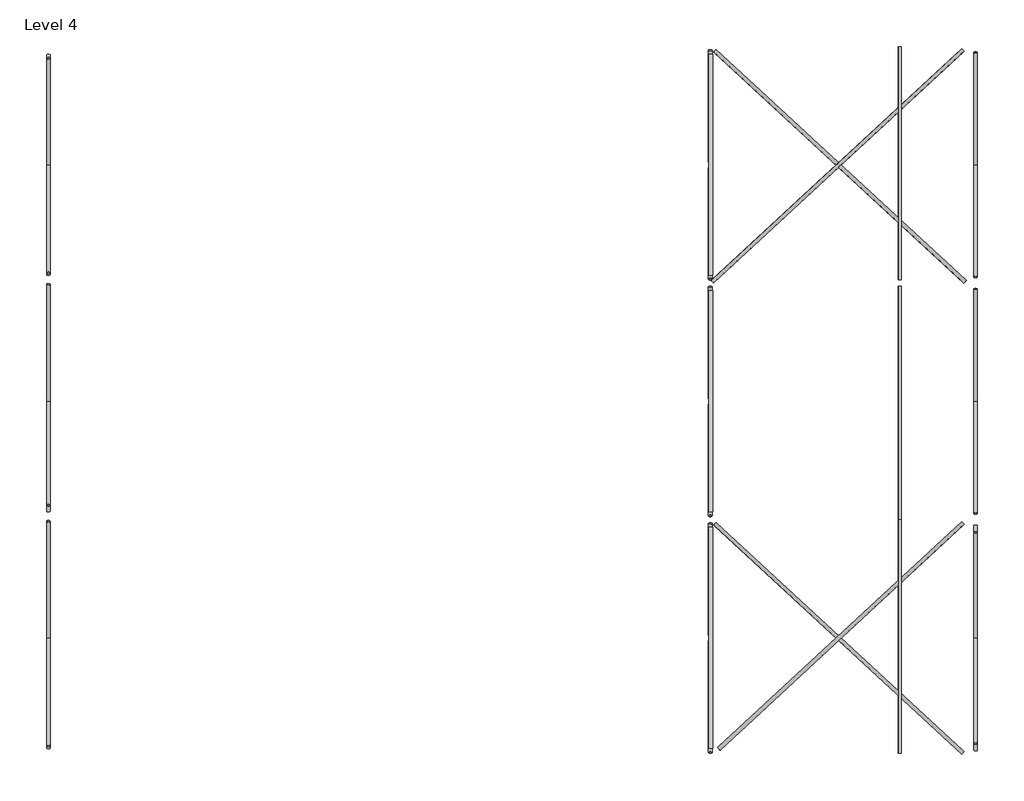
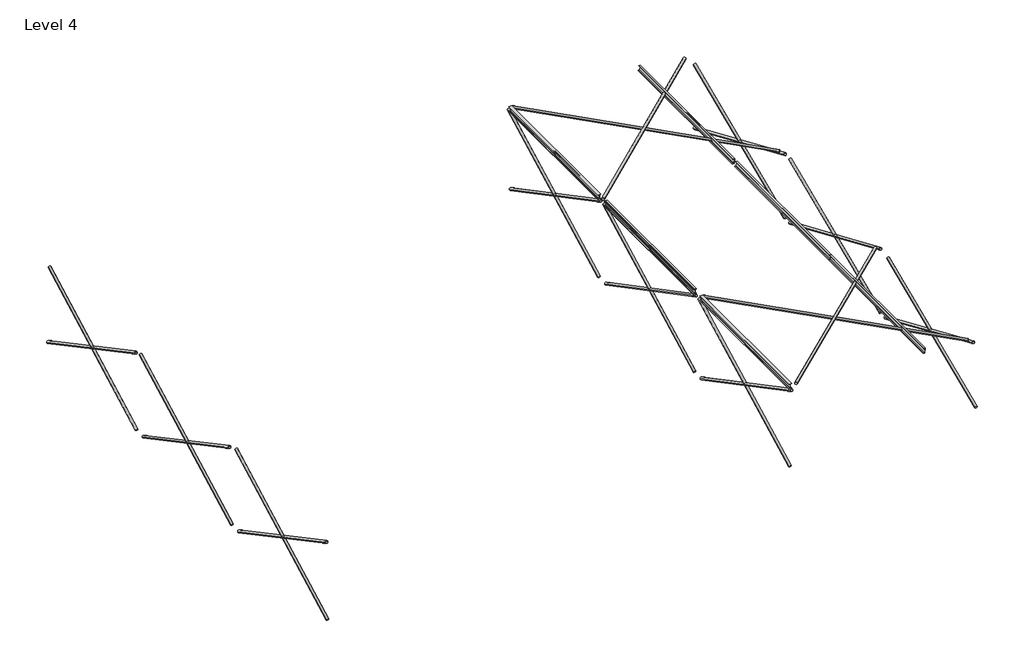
# One storey: 22 members, 6 beams.
"""IFC4 building model written with IfcOpenShell, lengths in millimetres."""

import ifcopenshell
import ifcopenshell.guid

model = None  # the IFC model being written
_history = None  # IfcOwnerHistory: only IFC2X3 demands one
_inside = {}  # id of a spatial element -> (the spatial element, [elements in it])
_under = {}  # id of a project, library or spatial element -> (it, [spatial elements below it])
_declared = {}  # id of a project -> (the project, [libraries it declares])
_typed = {}  # id of a type object -> (the type object, [elements of that type])
_made_of = {}  # id of a material, layer set ... -> (it, [elements and type objects made of it])


def new_model(schema):
    """Start an empty IFC model of exactly this schema.

    Asked for "IFC4X3", IfcOpenShell would pick the latest addendum, in which some entities
    have other attributes; the version numbers below select the first issue.
    IFC2X3 requires an IfcOwnerHistory on every rooted entity: one is made here for all.
    """
    global model, _history
    if schema == "IFC4X3":
        model = ifcopenshell.file(schema_version=(4, 3, 0, 0))
    else:
        model = ifcopenshell.file(schema=schema)
    _inside.clear()
    _under.clear()
    _declared.clear()
    _typed.clear()
    _made_of.clear()
    _history = None
    if model.schema == "IFC2X3":
        org = make("IfcOrganization", Name="unknown")
        user = make(
            "IfcPersonAndOrganization",
            ThePerson=make("IfcPerson", FamilyName="unknown"),
            TheOrganization=org,
        )
        app = make(
            "IfcApplication",
            ApplicationDeveloper=org,
            Version="unknown",
            ApplicationFullName="unknown",
            ApplicationIdentifier="unknown",
        )
        _history = make(
            "IfcOwnerHistory",
            OwningUser=user,
            OwningApplication=app,
            ChangeAction="ADDED",
            CreationDate=0,
        )
    return model


def make(cls, **values):
    """One entity of the class cls with the attributes given. An attribute that is None is left unset."""
    return model.create_entity(
        cls, **{name: value for name, value in values.items() if value is not None}
    )


def rooted(cls, **values):
    """An entity with a GlobalId (a new one), such as an element, a storey or a relation."""
    return make(cls, GlobalId=ifcopenshell.guid.new(), OwnerHistory=_history, **values)


def si_unit(unit_type, name, prefix=None):
    """IfcSIUnit, for example si_unit("LENGTHUNIT", "METRE", prefix="MILLI")."""
    return make("IfcSIUnit", UnitType=unit_type, Prefix=prefix, Name=name)


def assignment(units):
    """IfcUnitAssignment: the units of a project."""
    return None if units is None else make("IfcUnitAssignment", Units=units)


def point(xyz):
    """IfcCartesianPoint."""
    return None if xyz is None else make("IfcCartesianPoint", Coordinates=xyz)


def direction(xyz):
    """IfcDirection."""
    return None if xyz is None else make("IfcDirection", DirectionRatios=xyz)


def frame(location, z_axis=None, x_axis=None):
    """IfcAxis2Placement3D, a coordinate frame: its origin and axes. An axis left out is left unset."""
    return make(
        "IfcAxis2Placement3D",
        Location=point(location),
        Axis=direction(z_axis),
        RefDirection=direction(x_axis),
    )


def frame_2d(location, x_axis=None):
    """IfcAxis2Placement2D, a coordinate frame in the plane: its origin and x axis."""
    return make(
        "IfcAxis2Placement2D", Location=point(location), RefDirection=direction(x_axis)
    )


def origin():
    """The frame at (0, 0, 0) with its axes left unset."""
    return frame((0.0, 0.0, 0.0))


def origin_2d():
    """The frame at (0, 0) in the plane with its x axis left unset."""
    return frame_2d((0.0, 0.0))


def place(relative_to, where):
    """IfcLocalPlacement: puts the frame where relative to a parent placement (None: the world)."""
    return make(
        "IfcLocalPlacement", PlacementRelTo=relative_to, RelativePlacement=where
    )


def context(
    kind, dimensions, precision=None, world=None, true_north=None, identifier=None
):
    """IfcGeometricRepresentationContext, for example the 3D "Model" context."""
    return make(
        "IfcGeometricRepresentationContext",
        ContextIdentifier=identifier,
        ContextType=kind,
        CoordinateSpaceDimension=dimensions,
        Precision=precision,
        WorldCoordinateSystem=world,
        TrueNorth=true_north,
    )


def project(units=None, contexts=None):
    """IfcProject with its units and contexts."""
    return rooted(
        "IfcProject",
        Name="project",
        RepresentationContexts=contexts,
        UnitsInContext=assignment(units),
    )


def spatial(cls, under=None, at=None, **own):
    """A site, building, storey or space (cls), placed at a placement, below another one or the project."""
    s = rooted(cls, ObjectPlacement=at, **own)
    if under is not None:
        _under.setdefault(under.id(), (under, []))[1].append(s)
    return s


def polyline(points):
    """IfcPolyline through the points."""
    return make("IfcPolyline", Points=[point(p) for p in points])


def circle_curve(where, radius):
    """IfcCircle in the frame where."""
    return make("IfcCircle", Position=where, Radius=radius)


def trimmed(basis, trim1, trim2, sense, master):
    """IfcTrimmedCurve: the piece of a basis curve between two trims."""
    return make(
        "IfcTrimmedCurve",
        BasisCurve=basis,
        Trim1=trim1,
        Trim2=trim2,
        SenseAgreement=sense,
        MasterRepresentation=master,
    )


def segment(curve, same_sense, transition):
    """IfcCompositeCurveSegment."""
    return make(
        "IfcCompositeCurveSegment",
        Transition=transition,
        SameSense=same_sense,
        ParentCurve=curve,
    )


def composite_curve(segments, self_intersect=None):
    """IfcCompositeCurve: segments joined end to end."""
    return make("IfcCompositeCurve", Segments=segments, SelfIntersect=self_intersect)


def outline(outer, holes=None, kind="AREA"):
    """IfcArbitraryClosedProfileDef: a profile drawn as a closed curve; with holes, ...WithVoids."""
    if holes is None:
        return make("IfcArbitraryClosedProfileDef", ProfileType=kind, OuterCurve=outer)
    return make(
        "IfcArbitraryProfileDefWithVoids",
        ProfileType=kind,
        OuterCurve=outer,
        InnerCurves=holes,
    )


def extrude(swept, where, along, depth):
    """IfcExtrudedAreaSolid: the profile swept, set in the frame where, extruded along a direction by depth."""
    return make(
        "IfcExtrudedAreaSolid",
        SweptArea=swept,
        Position=where,
        ExtrudedDirection=direction(along),
        Depth=depth,
    )


def shape(context_of_items, identifier, shape_type, items):
    """IfcShapeRepresentation: the items that make up one representation, for example the "Body"."""
    return make(
        "IfcShapeRepresentation",
        ContextOfItems=context_of_items,
        RepresentationIdentifier=identifier,
        RepresentationType=shape_type,
        Items=items,
    )


def source(mapping_origin, context_of_items, identifier, shape_type, items):
    """IfcRepresentationMap: a shape defined once, which mapped items show again and again."""
    return make(
        "IfcRepresentationMap",
        MappingOrigin=mapping_origin,
        MappedRepresentation=shape(context_of_items, identifier, shape_type, items),
    )


def transform(
    local_origin,
    x_axis=None,
    y_axis=None,
    z_axis=None,
    scale=None,
    scale2=None,
    scale3=None,
    uniform=True,
):
    """IfcCartesianTransformationOperator3D, or its non-uniform kind. x_axis, y_axis, z_axis: its Axis1, 2, 3."""
    if uniform:
        return make(
            "IfcCartesianTransformationOperator3D",
            Axis1=direction(x_axis),
            Axis2=direction(y_axis),
            LocalOrigin=point(local_origin),
            Scale=scale,
            Axis3=direction(z_axis),
        )
    return make(
        "IfcCartesianTransformationOperator3DnonUniform",
        Axis1=direction(x_axis),
        Axis2=direction(y_axis),
        LocalOrigin=point(local_origin),
        Scale=scale,
        Axis3=direction(z_axis),
        Scale2=scale2,
        Scale3=scale3,
    )


def mapped(mapping_source, mapping_target):
    """IfcMappedItem: shows the shape of a source again, moved by a transform."""
    return make(
        "IfcMappedItem", MappingSource=mapping_source, MappingTarget=mapping_target
    )


def made_of(thing, what):
    """Note that an element or type object is made of a material, layer set ...; save() writes the relation."""
    if what is not None:
        _made_of.setdefault(what.id(), (what, []))[1].append(thing)
    return thing


def element(
    cls,
    number,
    at=None,
    inside=None,
    cuts=None,
    type_object=None,
    material=None,
    context=None,
    identifier="Body",
    shape_type=None,
    held_by="IfcProductDefinitionShape",
    body=None,
    shapes=None,
    **own,
):
    """One element of the class cls, such as IfcWall. Its Tag is "e" and its number.

    at: its placement. inside: the storey or other place that contains it. cuts: it is an
    opening in that element (IfcRelVoidsElement). A single representation is given by context,
    identifier, shape_type and body (its items); several are given by shapes. held_by: the class
    of the entity that holds the representations. save() writes the other relations.
    """
    e = rooted(cls, Tag="e%d" % number, ObjectPlacement=at, **own)
    if body is not None:
        shapes = [shape(context, identifier, shape_type, body)]
    if shapes is not None:
        e.Representation = make(held_by, Representations=shapes)
    if inside is not None:
        _inside.setdefault(inside.id(), (inside, []))[1].append(e)
    if cuts is not None:
        rooted(
            "IfcRelVoidsElement", RelatingBuildingElement=cuts, RelatedOpeningElement=e
        )
    if type_object is not None:
        _typed.setdefault(type_object.id(), (type_object, []))[1].append(e)
    return made_of(e, material)


def aggregate(whole, parts):
    """IfcRelAggregates: a whole, such as a stair, and the parts it consists of."""
    return rooted("IfcRelAggregates", RelatingObject=whole, RelatedObjects=parts)


def save(model, path):
    """Write the relations noted so far, then the file.

    IfcRelAggregates (storeys below a building ...), IfcRelContainedInSpatialStructure (elements
    in a storey), IfcRelDefinesByType, IfcRelAssociatesMaterial and IfcRelDeclares: one each for
    every whole, place, type object, material and project.
    """
    for whole, parts in _under.values():
        aggregate(whole, parts)
    for where, things in _inside.values():
        rooted(
            "IfcRelContainedInSpatialStructure",
            RelatedElements=things,
            RelatingStructure=where,
        )
    for kind, things in _typed.values():
        rooted("IfcRelDefinesByType", RelatedObjects=things, RelatingType=kind)
    for what, things in _made_of.values():
        rooted("IfcRelAssociatesMaterial", RelatedObjects=things, RelatingMaterial=what)
    for by, libraries in _declared.values():
        rooted("IfcRelDeclares", RelatingContext=by, RelatedDefinitions=libraries)
    model.write(path)


def c_channel_c6x13_5e4b8ca6(model_context):
    return source(origin(), model_context, "Body", "SweptSolid", [
        extrude(outline(composite_curve([segment(polyline([(13.0556, 76.2), (13.0556, -76.2), (-41.8084, -76.2)]), True, "CONTINUOUS"), segment(trimmed(circle_curve(frame_2d((-33.0962, -76.2)), 8.7122), [point((-41.8084, -76.2))], [point((-33.0962, -67.4878))], False, "CARTESIAN"), True, "CONTINUOUS"), segment(polyline([(-33.0962, -67.4878), (1.9558, -61.9361086), (1.9558, 61.9361086), (-33.0962, 67.4878)]), True, "CONTINUOUS"), segment(trimmed(circle_curve(frame_2d((-33.0962, 76.2)), 8.7122), [point((-33.0962, 67.4878))], [point((-41.8084, 76.2))], False, "CARTESIAN"), True, "CONTINUOUS"), segment(polyline([(-41.8084, 76.2), (13.0556, 76.2)]), True, "CONTINUOUS")], self_intersect=False)), frame((-2434.3170578, 0.0, 0.0), z_axis=(1.0, 0.0, 0.0), x_axis=(0.0, 1.0, 0.0)), (0.0, 0.0, 1.0), 4934.3170592),
    ])


def c_channel_c6x13_f35f4d1e(model_context):
    return source(origin(), model_context, "Body", "SweptSolid", [
        extrude(outline(composite_curve([segment(polyline([(-13.0556, 76.2), (41.8084, 76.2)]), True, "CONTINUOUS"), segment(trimmed(circle_curve(frame_2d((33.0962, 76.2)), 8.7122), [point((41.8084, 76.2))], [point((33.0962, 67.4878))], False, "CARTESIAN"), True, "CONTINUOUS"), segment(polyline([(33.0962, 67.4878), (-1.9558, 61.9361086), (-1.9558, -61.9361086), (33.0962, -67.4878)]), True, "CONTINUOUS"), segment(trimmed(circle_curve(frame_2d((33.0962, -76.2)), 8.7122), [point((33.0962, -67.4878))], [point((41.8084, -76.2))], False, "CARTESIAN"), True, "CONTINUOUS"), segment(polyline([(41.8084, -76.2), (-13.0556, -76.2), (-13.0556, 76.2)]), True, "CONTINUOUS")], self_intersect=False)), frame((-2434.3170578, 0.0, 0.0), z_axis=(1.0, 0.0, 0.0), x_axis=(0.0, 1.0, 0.0)), (0.0, 0.0, 1.0), 4934.3170592),
    ])


def s_shapes_s6x17_25_a5c0bde4(model_context):
    return source(origin(), model_context, "Body", "SweptSolid", [
        extrude(outline(composite_curve([segment(polyline([(-45.339, 76.2), (45.339, 76.2), (45.339, 74.2298368)]), True, "CONTINUOUS"), segment(trimmed(circle_curve(frame_2d((40.7797, 74.2298368)), 4.5593), [point((45.339, 74.2298368))], [point((41.5292458, 69.7325713))], False, "CARTESIAN"), True, "CONTINUOUS"), segment(polyline([(41.5292458, 69.7325713), (13.5250085, 65.065189)]), True, "CONTINUOUS"), segment(trimmed(circle_curve(frame_2d((15.0241, 56.0706579)), 9.1186), [point((13.5250085, 65.065189))], [point((5.9055, 56.0706579))], True, "CARTESIAN"), True, "CONTINUOUS"), segment(polyline([(5.9055, 56.0706579), (5.9055, -56.0706579)]), True, "CONTINUOUS"), segment(trimmed(circle_curve(frame_2d((15.0241, -56.0706579)), 9.1186), [point((5.9055, -56.0706579))], [point((13.5250085, -65.065189))], True, "CARTESIAN"), True, "CONTINUOUS"), segment(polyline([(13.5250085, -65.065189), (41.5292458, -69.7325713)]), True, "CONTINUOUS"), segment(trimmed(circle_curve(frame_2d((40.7797, -74.2298368)), 4.5593), [point((41.5292458, -69.7325713))], [point((45.339, -74.2298368))], False, "CARTESIAN"), True, "CONTINUOUS"), segment(polyline([(45.339, -74.2298368), (45.339, -76.2), (-45.339, -76.2), (-45.339, -74.2298368)]), True, "CONTINUOUS"), segment(trimmed(circle_curve(frame_2d((-40.7797, -74.2298368)), 4.5593), [point((-45.339, -74.2298368))], [point((-41.5292458, -69.7325713))], False, "CARTESIAN"), True, "CONTINUOUS"), segment(polyline([(-41.5292458, -69.7325713), (-13.5250085, -65.065189)]), True, "CONTINUOUS"), segment(trimmed(circle_curve(frame_2d((-15.0241, -56.0706579)), 9.1186), [point((-13.5250085, -65.065189))], [point((-5.9055, -56.0706579))], True, "CARTESIAN"), True, "CONTINUOUS"), segment(polyline([(-5.9055, -56.0706579), (-5.9055, 56.0706579)]), True, "CONTINUOUS"), segment(trimmed(circle_curve(frame_2d((-15.0241, 56.0706579)), 9.1186), [point((-5.9055, 56.0706579))], [point((-13.5250085, 65.065189))], True, "CARTESIAN"), True, "CONTINUOUS"), segment(polyline([(-13.5250085, 65.065189), (-41.5292458, 69.7325713)]), True, "CONTINUOUS"), segment(trimmed(circle_curve(frame_2d((-40.7797, 74.2298368)), 4.5593), [point((-41.5292458, 69.7325713))], [point((-45.339, 74.2298368))], False, "CARTESIAN"), True, "CONTINUOUS"), segment(polyline([(-45.339, 74.2298368), (-45.339, 76.2)]), True, "CONTINUOUS")], self_intersect=False)), frame((-2334.9, 0.0, 0.0), z_axis=(1.0, 0.0, 0.0), x_axis=(0.0, 1.0, 0.0)), (0.0, 0.0, 1.0), 4669.8),
    ])


def hss_round_hss3x_250_74f8981e(model_context):
    return source(origin(), model_context, "Body", "SweptSolid", [
        extrude(outline(composite_curve([segment(trimmed(circle_curve(origin_2d(), 38.1), [point((-38.1, 0.0))], [point((38.1, 0.0))], False, "CARTESIAN"), True, "CONTINUOUS"), segment(trimmed(circle_curve(origin_2d(), 38.1), [point((38.1, 0.0))], [point((-38.1, 0.0))], False, "CARTESIAN"), True, "CONTINUOUS")], self_intersect=False), holes=[composite_curve([segment(trimmed(circle_curve(origin_2d(), 31.75), [point((31.75, 0.0))], [point((-31.75, 0.0))], True, "CARTESIAN"), True, "CONTINUOUS"), segment(trimmed(circle_curve(origin_2d(), 31.75), [point((-31.75, 0.0))], [point((31.75, 0.0))], True, "CARTESIAN"), True, "CONTINUOUS")], self_intersect=False)]), frame((-2635.7306021, 0.0, 0.0), z_axis=(1.0, 0.0, 0.0), x_axis=(0.0, 1.0, 0.0)), (0.0, 0.0, 1.0), 5429.6890586),
    ])


def hss_round_hss3x_250_217f3deb(model_context):
    return source(origin(), model_context, "Body", "SweptSolid", [
        extrude(outline(composite_curve([segment(trimmed(circle_curve(origin_2d(), 38.1), [point((-38.1, 0.0))], [point((38.1, 0.0))], False, "CARTESIAN"), True, "CONTINUOUS"), segment(trimmed(circle_curve(origin_2d(), 38.1), [point((38.1, 0.0))], [point((-38.1, 0.0))], False, "CARTESIAN"), True, "CONTINUOUS")], self_intersect=False), holes=[composite_curve([segment(trimmed(circle_curve(origin_2d(), 31.75), [point((31.75, 0.0))], [point((-31.75, 0.0))], True, "CARTESIAN"), True, "CONTINUOUS"), segment(trimmed(circle_curve(origin_2d(), 31.75), [point((-31.75, 0.0))], [point((31.75, 0.0))], True, "CARTESIAN"), True, "CONTINUOUS")], self_intersect=False)]), frame((-2627.6644471, 0.0, 0.0), z_axis=(1.0, 0.0, 0.0), x_axis=(0.0, 1.0, 0.0)), (0.0, 0.0, 1.0), 5215.0384003),
    ])


def hss_round_hss3x_250_128aa239(model_context):
    return source(origin(), model_context, "Body", "SweptSolid", [
        extrude(outline(composite_curve([segment(trimmed(circle_curve(origin_2d(), 38.1), [point((-38.1, 0.0))], [point((38.1, 0.0))], False, "CARTESIAN"), True, "CONTINUOUS"), segment(trimmed(circle_curve(origin_2d(), 38.1), [point((38.1, 0.0))], [point((-38.1, 0.0))], False, "CARTESIAN"), True, "CONTINUOUS")], self_intersect=False), holes=[composite_curve([segment(trimmed(circle_curve(origin_2d(), 31.75), [point((31.75, 0.0))], [point((-31.75, 0.0))], True, "CARTESIAN"), True, "CONTINUOUS"), segment(trimmed(circle_curve(origin_2d(), 31.75), [point((-31.75, 0.0))], [point((31.75, 0.0))], True, "CARTESIAN"), True, "CONTINUOUS")], self_intersect=False)]), frame((-2635.7306021, 0.0, 0.0), z_axis=(1.0, 0.0, 0.0), x_axis=(0.0, 1.0, 0.0)), (0.0, 0.0, 1.0), 5123.9156244),
    ])


def hss_round_hss3x_250_2c127729(model_context):
    return source(origin(), model_context, "Body", "SweptSolid", [
        extrude(outline(composite_curve([segment(trimmed(circle_curve(origin_2d(), 38.1), [point((-38.1, 0.0))], [point((38.1, 0.0))], False, "CARTESIAN"), True, "CONTINUOUS"), segment(trimmed(circle_curve(origin_2d(), 38.1), [point((38.1, 0.0))], [point((-38.1, 0.0))], False, "CARTESIAN"), True, "CONTINUOUS")], self_intersect=False), holes=[composite_curve([segment(trimmed(circle_curve(origin_2d(), 31.75), [point((31.75, 0.0))], [point((-31.75, 0.0))], True, "CARTESIAN"), True, "CONTINUOUS"), segment(trimmed(circle_curve(origin_2d(), 31.75), [point((-31.75, 0.0))], [point((31.75, 0.0))], True, "CARTESIAN"), True, "CONTINUOUS")], self_intersect=False)]), frame((-2627.6644471, 0.0, 0.0), z_axis=(1.0, 0.0, 0.0), x_axis=(0.0, 1.0, 0.0)), (0.0, 0.0, 1.0), 5428.0536756),
    ])


def hss_round_hss3x_250_d4d0d283(model_context):
    return source(origin(), model_context, "Body", "SweptSolid", [
        extrude(outline(composite_curve([segment(trimmed(circle_curve(origin_2d(), 38.1), [point((-38.1, 0.0))], [point((38.1, 0.0))], False, "CARTESIAN"), True, "CONTINUOUS"), segment(trimmed(circle_curve(origin_2d(), 38.1), [point((38.1, 0.0))], [point((-38.1, 0.0))], False, "CARTESIAN"), True, "CONTINUOUS")], self_intersect=False), holes=[composite_curve([segment(trimmed(circle_curve(origin_2d(), 31.75), [point((31.75, 0.0))], [point((-31.75, 0.0))], True, "CARTESIAN"), True, "CONTINUOUS"), segment(trimmed(circle_curve(origin_2d(), 31.75), [point((-31.75, 0.0))], [point((31.75, 0.0))], True, "CARTESIAN"), True, "CONTINUOUS")], self_intersect=False)]), frame((-2612.6680417, 0.0, 0.0), z_axis=(1.0, 0.0, 0.0), x_axis=(0.0, 1.0, 0.0)), (0.0, 0.0, 1.0), 5186.7448519),
    ])


def hss_round_hss3x_250_dfc46df4(model_context):
    return source(origin(), model_context, "Body", "SweptSolid", [
        extrude(outline(composite_curve([segment(trimmed(circle_curve(origin_2d(), 38.1), [point((-38.1, 0.0))], [point((38.1, 0.0))], False, "CARTESIAN"), True, "CONTINUOUS"), segment(trimmed(circle_curve(origin_2d(), 38.1), [point((38.1, 0.0))], [point((-38.1, 0.0))], False, "CARTESIAN"), True, "CONTINUOUS")], self_intersect=False), holes=[composite_curve([segment(trimmed(circle_curve(origin_2d(), 31.75), [point((31.75, 0.0))], [point((-31.75, 0.0))], True, "CARTESIAN"), True, "CONTINUOUS"), segment(trimmed(circle_curve(origin_2d(), 31.75), [point((-31.75, 0.0))], [point((31.75, 0.0))], True, "CARTESIAN"), True, "CONTINUOUS")], self_intersect=False)]), frame((-2584.4756821, 0.0, 0.0), z_axis=(1.0, 0.0, 0.0), x_axis=(0.0, 1.0, 0.0)), (0.0, 0.0, 1.0), 5016.9413603),
    ])


def hss_round_hss3x_250_9a0c9b5f(model_context):
    return source(origin(), model_context, "Body", "SweptSolid", [
        extrude(outline(composite_curve([segment(trimmed(circle_curve(origin_2d(), 38.1), [point((-38.1, 0.0))], [point((38.1, 0.0))], False, "CARTESIAN"), True, "CONTINUOUS"), segment(trimmed(circle_curve(origin_2d(), 38.1), [point((38.1, 0.0))], [point((-38.1, 0.0))], False, "CARTESIAN"), True, "CONTINUOUS")], self_intersect=False), holes=[composite_curve([segment(trimmed(circle_curve(origin_2d(), 31.75), [point((31.75, 0.0))], [point((-31.75, 0.0))], True, "CARTESIAN"), True, "CONTINUOUS"), segment(trimmed(circle_curve(origin_2d(), 31.75), [point((-31.75, 0.0))], [point((31.75, 0.0))], True, "CARTESIAN"), True, "CONTINUOUS")], self_intersect=False)]), frame((-2581.9558428, 0.0, 0.0), z_axis=(1.0, 0.0, 0.0), x_axis=(0.0, 1.0, 0.0)), (0.0, 0.0, 1.0), 5163.9116856),
    ])


def hss_round_hss3x_250_a504d2e9(model_context):
    return source(origin(), model_context, "Body", "SweptSolid", [
        extrude(outline(composite_curve([segment(trimmed(circle_curve(origin_2d(), 38.1), [point((-38.1, 0.0))], [point((38.1, 0.0))], False, "CARTESIAN"), True, "CONTINUOUS"), segment(trimmed(circle_curve(origin_2d(), 38.1), [point((38.1, 0.0))], [point((-38.1, 0.0))], False, "CARTESIAN"), True, "CONTINUOUS")], self_intersect=False), holes=[composite_curve([segment(trimmed(circle_curve(origin_2d(), 31.75), [point((31.75, 0.0))], [point((-31.75, 0.0))], True, "CARTESIAN"), True, "CONTINUOUS"), segment(trimmed(circle_curve(origin_2d(), 31.75), [point((-31.75, 0.0))], [point((31.75, 0.0))], True, "CARTESIAN"), True, "CONTINUOUS")], self_intersect=False)]), frame((-3579.8227274, 0.0, 0.0), z_axis=(1.0, 0.0, 0.0), x_axis=(0.0, 1.0, 0.0)), (0.0, 0.0, 1.0), 7033.8042019),
    ])


def hss_round_hss3x_250_dd1e542f(model_context):
    return source(origin(), model_context, "Body", "SweptSolid", [
        extrude(outline(composite_curve([segment(trimmed(circle_curve(origin_2d(), 38.1), [point((-38.1, 0.0))], [point((38.1, 0.0))], False, "CARTESIAN"), True, "CONTINUOUS"), segment(trimmed(circle_curve(origin_2d(), 38.1), [point((38.1, 0.0))], [point((-38.1, 0.0))], False, "CARTESIAN"), True, "CONTINUOUS")], self_intersect=False), holes=[composite_curve([segment(trimmed(circle_curve(origin_2d(), 31.75), [point((31.75, 0.0))], [point((-31.75, 0.0))], True, "CARTESIAN"), True, "CONTINUOUS"), segment(trimmed(circle_curve(origin_2d(), 31.75), [point((-31.75, 0.0))], [point((31.75, 0.0))], True, "CARTESIAN"), True, "CONTINUOUS")], self_intersect=False)]), frame((-3578.2504716, 0.0, 0.0), z_axis=(1.0, 0.0, 0.0), x_axis=(0.0, 1.0, 0.0)), (0.0, 0.0, 1.0), 7216.3772521),
    ])


def hss_round_hss3x_250_2a7507b8(model_context):
    return source(origin(), model_context, "Body", "SweptSolid", [
        extrude(outline(composite_curve([segment(trimmed(circle_curve(origin_2d(), 38.1), [point((-38.1, 0.0))], [point((38.1, 0.0))], False, "CARTESIAN"), True, "CONTINUOUS"), segment(trimmed(circle_curve(origin_2d(), 38.1), [point((38.1, 0.0))], [point((-38.1, 0.0))], False, "CARTESIAN"), True, "CONTINUOUS")], self_intersect=False), holes=[composite_curve([segment(trimmed(circle_curve(origin_2d(), 31.75), [point((31.75, 0.0))], [point((-31.75, 0.0))], True, "CARTESIAN"), True, "CONTINUOUS"), segment(trimmed(circle_curve(origin_2d(), 31.75), [point((-31.75, 0.0))], [point((31.75, 0.0))], True, "CARTESIAN"), True, "CONTINUOUS")], self_intersect=False)]), frame((-2622.2769385, 0.0, 0.0), z_axis=(1.0, 0.0, 0.0), x_axis=(0.0, 1.0, 0.0)), (0.0, 0.0, 1.0), 5356.9968858),
    ])


def hss_round_hss3x_250_d90fe34d(model_context):
    return source(origin(), model_context, "Body", "SweptSolid", [
        extrude(outline(composite_curve([segment(trimmed(circle_curve(origin_2d(), 38.1), [point((-38.1, 0.0))], [point((38.1, 0.0))], False, "CARTESIAN"), True, "CONTINUOUS"), segment(trimmed(circle_curve(origin_2d(), 38.1), [point((38.1, 0.0))], [point((-38.1, 0.0))], False, "CARTESIAN"), True, "CONTINUOUS")], self_intersect=False), holes=[composite_curve([segment(trimmed(circle_curve(origin_2d(), 31.75), [point((31.75, 0.0))], [point((-31.75, 0.0))], True, "CARTESIAN"), True, "CONTINUOUS"), segment(trimmed(circle_curve(origin_2d(), 31.75), [point((-31.75, 0.0))], [point((31.75, 0.0))], True, "CARTESIAN"), True, "CONTINUOUS")], self_intersect=False)]), frame((-3580.9822826, 0.0, 0.0), z_axis=(1.0, 0.0, 0.0), x_axis=(0.0, 1.0, 0.0)), (0.0, 0.0, 1.0), 7135.8640915),
    ])


def hss_round_hss3x_250_58398f4c(model_context):
    return source(origin(), model_context, "Body", "SweptSolid", [
        extrude(outline(composite_curve([segment(trimmed(circle_curve(origin_2d(), 38.1), [point((-38.1, 0.0))], [point((38.1, 0.0))], False, "CARTESIAN"), True, "CONTINUOUS"), segment(trimmed(circle_curve(origin_2d(), 38.1), [point((38.1, 0.0))], [point((-38.1, 0.0))], False, "CARTESIAN"), True, "CONTINUOUS")], self_intersect=False), holes=[composite_curve([segment(trimmed(circle_curve(origin_2d(), 31.75), [point((31.75, 0.0))], [point((-31.75, 0.0))], True, "CARTESIAN"), True, "CONTINUOUS"), segment(trimmed(circle_curve(origin_2d(), 31.75), [point((-31.75, 0.0))], [point((31.75, 0.0))], True, "CARTESIAN"), True, "CONTINUOUS")], self_intersect=False)]), frame((-3644.2341311, 0.0, 0.0), z_axis=(1.0, 0.0, 0.0), x_axis=(0.0, 1.0, 0.0)), (0.0, 0.0, 1.0), 7199.1141413),
    ])


model = new_model("IFC4")

# Units and contexts
model_context = context("Model", 3, world=origin())
ifc_project = project(units=[si_unit("LENGTHUNIT", "METRE", prefix="MILLI")], contexts=[model_context])

# Site, building, storey
site = spatial("IfcSite", under=ifc_project)
building = spatial("IfcBuilding", under=site)
storey = spatial("IfcBuildingStorey", under=building, Name="Level 4", Elevation=-500.0)

# Beams
placement = place(None, origin())
c_channel_c6x13_shape = c_channel_c6x13_5e4b8ca6(model_context)
element("IfcBeam", 1, ObjectType="C-Channel : C6X13", at=placement, inside=storey, context=model_context, shape_type="MappedRepresentation", body=[
    mapped(c_channel_c6x13_shape, transform((-2069.4930472, 1156.3470292, -281.8757848), x_axis=(0.0, 0.9999999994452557, 3.3308980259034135e-05), y_axis=(0.9960410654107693, 2.9609783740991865e-06, -0.08889429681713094), z_axis=(-0.08889429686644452, 3.317711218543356e-05, -0.9960410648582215))),
])
element("IfcBeam", 2, ObjectType="C-Channel : C6X13", at=placement, inside=storey, context=model_context, shape_type="MappedRepresentation", body=[
    mapped(c_channel_c6x13_shape, transform((-2069.4930472, 11156.3470292, -281.8757848), x_axis=(0.0, 0.9999999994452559, 3.330898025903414e-05), y_axis=(0.9960410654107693, 2.960978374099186e-06, -0.08889429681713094), z_axis=(-0.08889429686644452, 3.3177112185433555e-05, -0.9960410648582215))),
])
c_channel_c6x13_2_shape = c_channel_c6x13_f35f4d1e(model_context)
element("IfcBeam", 3, ObjectType="C-Channel : C6X13", at=placement, inside=storey, context=model_context, shape_type="MappedRepresentation", body=[
    mapped(c_channel_c6x13_2_shape, transform((-2069.4930472, 6156.3520854, -281.8757848), x_axis=(0.0, -0.9999999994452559, 3.330898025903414e-05), y_axis=(-0.9960410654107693, 2.960978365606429e-06, 0.08889429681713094), z_axis=(-0.08889429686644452, -3.3177112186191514e-05, -0.9960410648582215))),
])
s_shapes_s6x17_25_shape = s_shapes_s6x17_25_a5c0bde4(model_context)
element("IfcBeam", 4, ObjectType="S Shapes : S6X17.25", at=placement, inside=storey, context=model_context, shape_type="MappedRepresentation", body=[
    mapped(s_shapes_s6x17_25_shape, transform((-6081.809301, 1156.3495573, -76.2), x_axis=(0.0, 1.0, 0.0), y_axis=(-1.0, 0.0, 0.0), z_axis=(0.0, 0.0, 1.0))),
])
element("IfcBeam", 5, ObjectType="S Shapes : S6X17.25", at=placement, inside=storey, context=model_context, shape_type="MappedRepresentation", body=[
    mapped(s_shapes_s6x17_25_shape, transform((-6081.809301, 6156.3495573, -76.2), x_axis=(0.0, 1.0, 0.0), y_axis=(-1.0, 0.0, 0.0), z_axis=(0.0, 0.0, 1.0))),
])
element("IfcBeam", 6, ObjectType="S Shapes : S6X17.25", at=placement, inside=storey, context=model_context, shape_type="MappedRepresentation", body=[
    mapped(s_shapes_s6x17_25_shape, transform((-6081.809301, 11156.3495573, -76.2), x_axis=(0.0, 1.0, 0.0), y_axis=(-1.0, 0.0, 0.0), z_axis=(0.0, 0.0, 1.0))),
])

# Members
hss_round_hss3x_250_shape = hss_round_hss3x_250_74f8981e(model_context)
element("IfcMember", 7, ObjectType="HSS Round : HSS3X.250", at=placement, inside=storey, context=model_context, shape_type="MappedRepresentation", body=[
    mapped(hss_round_hss3x_250_shape, transform((-20081.809301, 1156.3495573, -1409.7), x_axis=(0.0, 0.8823285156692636, 0.47063403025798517), y_axis=(-1.0, 0.0, 0.0), z_axis=(0.0, -0.47063403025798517, 0.8823285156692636))),
])
hss_round_hss3x_250_2_shape = hss_round_hss3x_250_217f3deb(model_context)
element("IfcMember", 8, ObjectType="HSS Round : HSS3X.250", at=placement, inside=storey, context=model_context, shape_type="MappedRepresentation", body=[
    mapped(hss_round_hss3x_250_2_shape, transform((-20081.809301, 1156.3495573, -1409.7), x_axis=(0.0, -0.8823285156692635, 0.4706340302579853), y_axis=(1.0, 0.0, 0.0), z_axis=(0.0, 0.4706340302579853, 0.8823285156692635))),
])
element("IfcMember", 9, ObjectType="HSS Round : HSS3X.250", at=placement, inside=storey, context=model_context, shape_type="MappedRepresentation", body=[
    mapped(hss_round_hss3x_250_2_shape, transform((-20081.809301, 11156.3495573, -1409.7), x_axis=(0.0, -0.8823285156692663, 0.4706340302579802), y_axis=(1.0, 0.0, 0.0), z_axis=(0.0, 0.4706340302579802, 0.8823285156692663))),
])
hss_round_hss3x_250_3_shape = hss_round_hss3x_250_128aa239(model_context)
element("IfcMember", 10, ObjectType="HSS Round : HSS3X.250", at=placement, inside=storey, context=model_context, shape_type="MappedRepresentation", body=[
    mapped(hss_round_hss3x_250_3_shape, transform((-20081.809301, 6156.3495573, -1409.7), x_axis=(0.0, -0.8823285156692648, 0.4706340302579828), y_axis=(1.0, 0.0, 0.0), z_axis=(0.0, 0.4706340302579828, 0.8823285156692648))),
])
hss_round_hss3x_250_4_shape = hss_round_hss3x_250_2c127729(model_context)
element("IfcMember", 11, ObjectType="HSS Round : HSS3X.250", at=placement, inside=storey, context=model_context, shape_type="MappedRepresentation", body=[
    mapped(hss_round_hss3x_250_4_shape, transform((-20081.809301, 6156.3495573, -1409.7), x_axis=(0.0, 0.8823285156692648, 0.4706340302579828), y_axis=(-1.0, 0.0, 0.0), z_axis=(0.0, -0.4706340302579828, 0.8823285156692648))),
])
hss_round_hss3x_250_5_shape = hss_round_hss3x_250_d4d0d283(model_context)
element("IfcMember", 12, ObjectType="HSS Round : HSS3X.250", at=placement, inside=storey, context=model_context, shape_type="MappedRepresentation", body=[
    mapped(hss_round_hss3x_250_5_shape, transform((-20081.809301, 11139.7845466, -1409.7), x_axis=(0.0, 0.8810234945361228, 0.473072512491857), y_axis=(-1.0, 0.0, 0.0), z_axis=(0.0, -0.473072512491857, 0.8810234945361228))),
])
hss_round_hss3x_250_6_shape = hss_round_hss3x_250_dfc46df4(model_context)
element("IfcMember", 13, ObjectType="HSS Round : HSS3X.250", at=placement, inside=storey, context=model_context, shape_type="MappedRepresentation", body=[
    mapped(hss_round_hss3x_250_6_shape, transform((-481.809301, 1156.3495573, -1659.7), x_axis=(0.0, 0.9175333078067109, 0.3976589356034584), y_axis=(-1.0, 0.0, 0.0), z_axis=(0.0, -0.3976589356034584, 0.9175333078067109))),
])
element("IfcMember", 14, ObjectType="HSS Round : HSS3X.250", at=placement, inside=storey, context=model_context, shape_type="MappedRepresentation", body=[
    mapped(hss_round_hss3x_250_6_shape, transform((-481.809301, 1156.3495573, -1659.7), x_axis=(0.0, -0.9175333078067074, 0.39765893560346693), y_axis=(1.0, 0.0, 0.0), z_axis=(0.0, 0.39765893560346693, 0.9175333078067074))),
])
hss_round_hss3x_250_7_shape = hss_round_hss3x_250_9a0c9b5f(model_context)
element("IfcMember", 15, ObjectType="HSS Round : HSS3X.250", at=placement, inside=storey, context=model_context, shape_type="MappedRepresentation", body=[
    mapped(hss_round_hss3x_250_7_shape, transform((-481.809301, 6156.3495573, -1666.6), x_axis=(0.0, 0.9184557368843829, 0.3955237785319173), y_axis=(-1.0, 0.0, 0.0), z_axis=(0.0, -0.3955237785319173, 0.9184557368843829))),
])
element("IfcMember", 16, ObjectType="HSS Round : HSS3X.250", at=placement, inside=storey, context=model_context, shape_type="MappedRepresentation", body=[
    mapped(hss_round_hss3x_250_7_shape, transform((-481.809301, 6156.3495573, -1666.6), x_axis=(0.0, -0.9184557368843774, 0.39552377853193), y_axis=(1.0, 0.0, 0.0), z_axis=(0.0, 0.39552377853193, 0.9184557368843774))),
])
element("IfcMember", 17, ObjectType="HSS Round : HSS3X.250", at=placement, inside=storey, context=model_context, shape_type="MappedRepresentation", body=[
    mapped(hss_round_hss3x_250_7_shape, transform((-481.809301, 11156.3495573, -1666.6), x_axis=(0.0, 0.9184557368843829, 0.3955237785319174), y_axis=(-1.0, 0.0, 0.0), z_axis=(0.0, -0.3955237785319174, 0.9184557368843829))),
])
element("IfcMember", 18, ObjectType="HSS Round : HSS3X.250", at=placement, inside=storey, context=model_context, shape_type="MappedRepresentation", body=[
    mapped(hss_round_hss3x_250_7_shape, transform((-481.809301, 11156.3495573, -1666.6), x_axis=(0.0, -0.9184557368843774, 0.3955237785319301), y_axis=(1.0, 0.0, 0.0), z_axis=(0.0, 0.3955237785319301, 0.9184557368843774))),
])
hss_round_hss3x_250_8_shape = hss_round_hss3x_250_a504d2e9(model_context)
element("IfcMember", 19, ObjectType="HSS Round : HSS3X.250", at=placement, inside=storey, context=model_context, shape_type="MappedRepresentation", body=[
    mapped(hss_round_hss3x_250_8_shape, transform((-3378.4224283, 1156.3482933, -215.2266221), x_axis=(-0.7331993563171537, -0.6780374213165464, 0.05180694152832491), y_axis=(0.6789491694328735, -0.7341852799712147, 0.0), z_axis=(0.038035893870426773, 0.03517427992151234, 0.9986571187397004))),
])
hss_round_hss3x_250_9_shape = hss_round_hss3x_250_dd1e542f(model_context)
element("IfcMember", 20, ObjectType="HSS Round : HSS3X.250", at=placement, inside=storey, context=model_context, shape_type="MappedRepresentation", body=[
    mapped(hss_round_hss3x_250_9_shape, transform((-3378.4224283, 11156.3482933, -241.222264), x_axis=(-0.733449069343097, -0.6782683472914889, 0.044771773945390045), y_axis=(0.6789491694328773, -0.7341852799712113, 0.0), z_axis=(0.03287077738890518, 0.030397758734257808, 0.9989972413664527))),
])
hss_round_hss3x_250_10_shape = hss_round_hss3x_250_2a7507b8(model_context)
element("IfcMember", 21, ObjectType="HSS Round : HSS3X.250", at=placement, inside=storey, context=model_context, shape_type="MappedRepresentation", body=[
    mapped(hss_round_hss3x_250_10_shape, transform((-6086.3270435, 1156.3495573, -1422.1987154), x_axis=(-0.0015977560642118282, 0.8841562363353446, 0.46718860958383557), y_axis=(-0.9999983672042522, -0.0018070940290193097, 0.0), z_axis=(0.0008442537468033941, -0.46718784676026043, 0.884157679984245))),
])
element("IfcMember", 22, ObjectType="HSS Round : HSS3X.250", at=placement, inside=storey, context=model_context, shape_type="MappedRepresentation", body=[
    mapped(hss_round_hss3x_250_10_shape, transform((-6086.3270435, 1156.3495573, -1422.1987154), x_axis=(-0.0015977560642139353, -0.8841562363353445, 0.4671886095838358), y_axis=(0.9999983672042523, -0.0018070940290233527, 0.0), z_axis=(0.0008442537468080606, 0.4671878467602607, 0.884157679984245))),
])
element("IfcMember", 23, ObjectType="HSS Round : HSS3X.250", at=placement, inside=storey, context=model_context, shape_type="MappedRepresentation", body=[
    mapped(hss_round_hss3x_250_10_shape, transform((-6086.3270435, 6156.3495573, -1422.1987154), x_axis=(-0.0015977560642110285, 0.8841562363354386, 0.46718860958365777), y_axis=(-0.9999983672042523, -0.0018070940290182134, 0.0), z_axis=(0.0008442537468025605, -0.4671878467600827, 0.8841576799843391))),
])
element("IfcMember", 24, ObjectType="HSS Round : HSS3X.250", at=placement, inside=storey, context=model_context, shape_type="MappedRepresentation", body=[
    mapped(hss_round_hss3x_250_10_shape, transform((-6086.3270435, 6156.3495573, -1422.1987154), x_axis=(-0.0015977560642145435, -0.8841562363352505, 0.4671886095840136), y_axis=(0.9999983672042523, -0.0018070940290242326, 0.0), z_axis=(0.000844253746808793, 0.4671878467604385, 0.8841576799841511))),
])
element("IfcMember", 25, ObjectType="HSS Round : HSS3X.250", at=placement, inside=storey, context=model_context, shape_type="MappedRepresentation", body=[
    mapped(hss_round_hss3x_250_10_shape, transform((-6086.3270435, 11156.3495573, -1422.1987154), x_axis=(-0.0015977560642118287, 0.8841562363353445, 0.4671886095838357), y_axis=(-0.9999983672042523, -0.0018070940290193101, 0.0), z_axis=(0.0008442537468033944, -0.4671878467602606, 0.884157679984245))),
])
element("IfcMember", 26, ObjectType="HSS Round : HSS3X.250", at=placement, inside=storey, context=model_context, shape_type="MappedRepresentation", body=[
    mapped(hss_round_hss3x_250_10_shape, transform((-6086.3270435, 11156.3495573, -1422.1987154), x_axis=(-0.0015977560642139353, -0.8841562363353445, 0.4671886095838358), y_axis=(0.9999983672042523, -0.0018070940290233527, 0.0), z_axis=(0.0008442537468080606, 0.4671878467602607, 0.884157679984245))),
])
hss_round_hss3x_250_11_shape = hss_round_hss3x_250_d90fe34d(model_context)
element("IfcMember", 27, ObjectType="HSS Round : HSS3X.250", at=placement, inside=storey, context=model_context, shape_type="MappedRepresentation", body=[
    mapped(hss_round_hss3x_250_11_shape, transform((-3382.9401708, 1156.3482933, -253.8042519), x_axis=(-0.7341206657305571, 0.6777574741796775, 0.041372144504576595), y_axis=(-0.6783382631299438, -0.7347497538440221, 0.0), z_axis=(0.030398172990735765, -0.02806430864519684, 0.9991438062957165))),
])
hss_round_hss3x_250_12_shape = hss_round_hss3x_250_58398f4c(model_context)
element("IfcMember", 28, ObjectType="HSS Round : HSS3X.250", at=placement, inside=storey, context=model_context, shape_type="MappedRepresentation", body=[
    mapped(hss_round_hss3x_250_12_shape, transform((-3382.9401708, 11156.3508214, -253.8042519), x_axis=(-0.7341210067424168, 0.6777571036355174, 0.041372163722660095), y_axis=(-0.6783378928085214, -0.734750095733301, 0.0), z_axis=(0.030398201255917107, -0.028064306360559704, 0.9991438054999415))),
])

save(model, "model.ifc")
